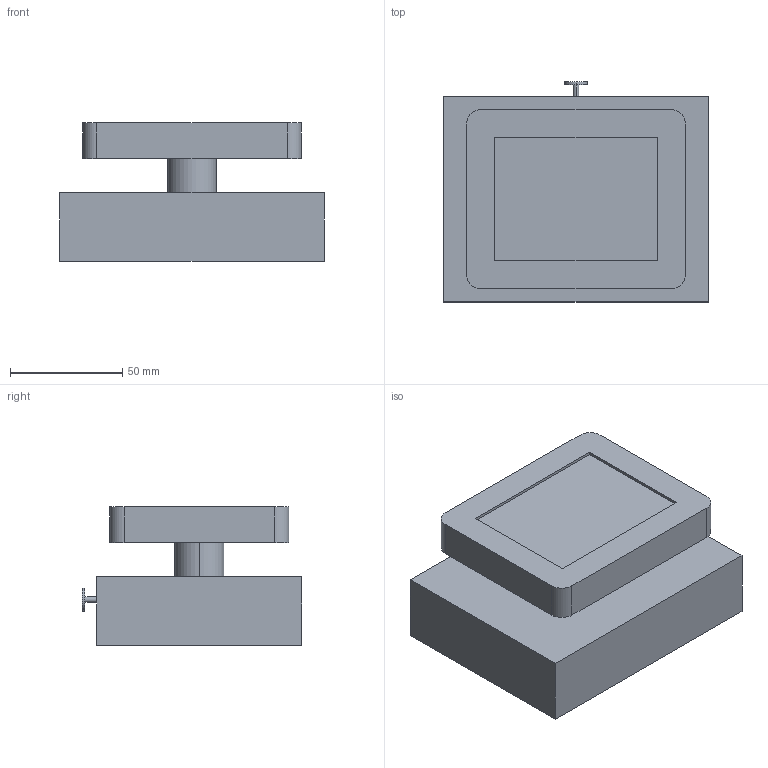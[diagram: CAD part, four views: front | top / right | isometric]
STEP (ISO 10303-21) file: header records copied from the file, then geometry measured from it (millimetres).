
FILE_DESCRIPTION((''),'2;1');
FILE_NAME('MDSN','2014-05-06T',('SL64526'),(''),'PRO/ENGINEER BY PARAMETRIC TECHNOLOGY CORPORATION, 2011220','PRO/ENGINEER BY PARAMETRIC TECHNOLOGY CORPORATION, 2011220','');
FILE_SCHEMA(('CONFIG_CONTROL_DESIGN'));
Length unit declared in the file: inch
Products named in the file (1): MDSN
Bounding box: 117.86 x 98.04 x 61.72 mm (x, y, z)
Volume: 453199.8 mm3; surface area: 56155.4 mm2
Topology: 1 solids, 1 shells, 29 faces, 66 edges, 44 vertices
Faces by surface type: plane 19, cylinder 10
Entity records: 860 total; most frequent: DIRECTION 144, CARTESIAN_POINT 139, ORIENTED_EDGE 132, EDGE_CURVE 66, AXIS2_PLACEMENT_3D 49, VECTOR 46, LINE 46, VERTEX_POINT 44
